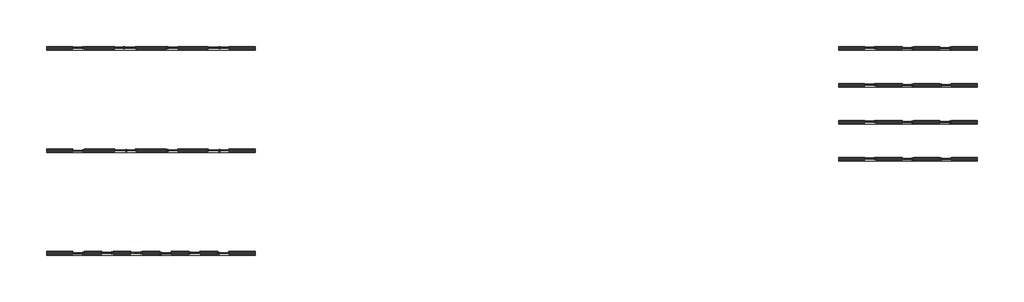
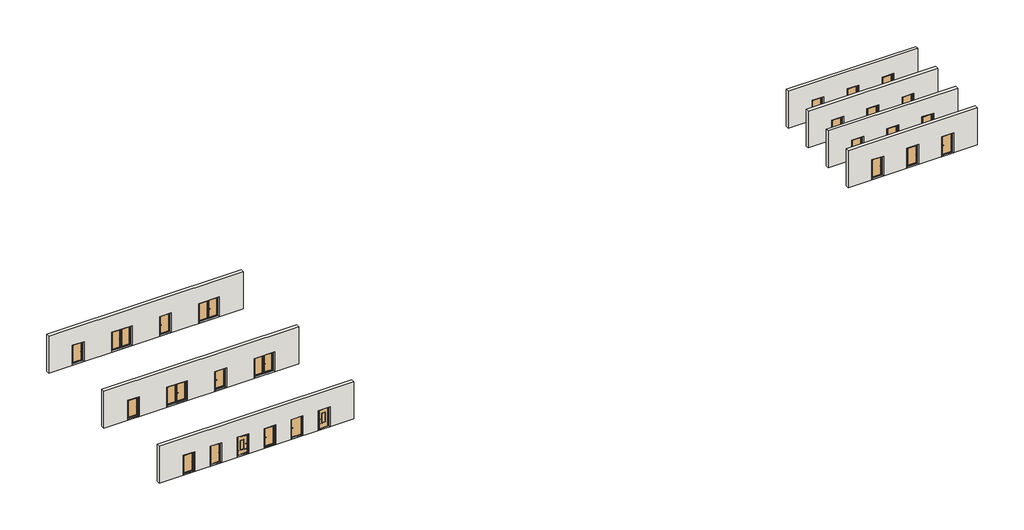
# One storey: 26 doors, 7 walls.
"""IFC4 building model written with IfcOpenShell, lengths in millimetres."""

from ifc_helpers import new_model, si_unit, origin, place, context, project, spatial, faceted_brep, transform, mapped, element, save
from components import door_6b16127b, door_e52979b4, door_422cb465, door_0d24d2ff, door_79985621, door_7bfdfdec, door_d3311b6a, door_79777f99, door_e801cc89, door_6b7e9e11, door_0151d565, door_f76902fe, door_2ac161dd, door_eae7a023, door_b9a668b0, door_777bb172, door_1f8e81a8, door_75182414, door_b5e8bffb, door_9ae7bd01, door_9cbeffaa, door_b2cb6bb5, door_4000bd27

model = new_model("IFC4")

# Units and contexts
model_context = context("Model", 3, world=origin())
ifc_project = project(units=[si_unit("LENGTHUNIT", "METRE", prefix="MILLI")], contexts=[model_context])

# Site, building, storey
site = spatial("IfcSite", under=ifc_project)
building = spatial("IfcBuilding", under=site)
storey = spatial("IfcBuildingStorey", under=building, Name="REY 01 - Overview Doors", Elevation=0.0)

# Doors
placement = place(None, origin())
door_shape = door_6b16127b(model_context)
element("IfcDoor", 1, ObjectType="Reynaers_CS 77_Door_Miter_Inward Opening_Double Vent : Reynaers_CS 77_Door_Inward Opening_Double Vent", at=placement, inside=storey, context=model_context, shape_type="MappedRepresentation", body=[
    mapped(door_shape, transform((-495.1752344, 9435.7590232, 0.0), x_axis=(-1.0, 0.0, 0.0), y_axis=(0.0, -1.0, 0.0), z_axis=(0.0, 0.0, 1.0))),
])
door_2_shape = door_e52979b4(model_context)
element("IfcDoor", 2, ObjectType="Reynaers_CS 77_Door_Miter_Inward Opening_Single Vent : Reynaers_CS 77_Door_Miter_Inward Opening_Single Vent", at=placement, inside=storey, context=model_context, shape_type="MappedRepresentation", body=[
    mapped(door_2_shape, transform((-4978.1752344, 9435.7590232, 0.0), x_axis=(-1.0, 0.0, 0.0), y_axis=(0.0, -1.0, 0.0), z_axis=(0.0, 0.0, 1.0))),
])
element("IfcDoor", 3, ObjectType="Reynaers_CS 77_Door_Miter_Inward Opening_Single Vent : Reynaers_CS 77_Door_Miter_Inward Opening_Single Vent", at=placement, inside=storey, context=model_context, shape_type="MappedRepresentation", body=[
    mapped(door_2_shape, transform((71021.8247656, 9435.7590232, 0.0), x_axis=(-1.0, 0.0, 0.0), y_axis=(0.0, -1.0, 0.0), z_axis=(0.0, 0.0, 1.0))),
])
door_3_shape = door_422cb465(model_context)
element("IfcDoor", 4, ObjectType="Reynaers_CS 77_Door_Miter_Inward Opening_Single Vent : Reynaers_CS 77_Door_Miter_Inward Opening_Single Vent", at=placement, inside=storey, context=model_context, shape_type="MappedRepresentation", body=[
    mapped(door_3_shape, transform((71021.8247656, 5887.8975638, 0.0), x_axis=(-1.0, 0.0, 0.0), y_axis=(0.0, -1.0, 0.0), z_axis=(0.0, 0.0, 1.0))),
])
door_4_shape = door_0d24d2ff(model_context)
element("IfcDoor", 5, ObjectType="Reynaers_CS 77_Door_Miter_Outward Opening_Double Vent : Reynaers_CS 77_Door_Inward Opening_Double Vent", at=placement, inside=storey, context=model_context, shape_type="MappedRepresentation", body=[
    mapped(door_4_shape, transform((8471.8247656, 9435.7590232, 0.0), x_axis=(1.0, 0.0, 0.0), y_axis=(0.0, 1.0, 0.0), z_axis=(0.0, 0.0, 1.0))),
])
door_5_shape = door_79985621(model_context)
element("IfcDoor", 6, ObjectType="Reynaers_CS 77_Door_Miter_Outward Opening_Single Vent : Reynaers_CS 77_Door_Miter_Outward Opening_Single Vent", at=placement, inside=storey, context=model_context, shape_type="MappedRepresentation", body=[
    mapped(door_5_shape, transform((3988.8247656, 9435.7590232, 0.0), x_axis=(1.0, 0.0, 0.0), y_axis=(0.0, 1.0, 0.0), z_axis=(0.0, 0.0, 1.0))),
])
door_6_shape = door_7bfdfdec(model_context)
element("IfcDoor", 7, ObjectType="Reynaers_CS 77_Door_Miter_Outward Opening_Single Vent : Reynaers_CS 77_Door_Miter_Outward Opening_Single Vent", at=placement, inside=storey, context=model_context, shape_type="MappedRepresentation", body=[
    mapped(door_6_shape, transform((71021.8247656, -1212.1024362, 0.0), x_axis=(-1.0, 0.0, 0.0), y_axis=(0.0, -1.0, 0.0), z_axis=(0.0, 0.0, 1.0))),
])
door_7_shape = door_d3311b6a(model_context)
element("IfcDoor", 8, ObjectType="Reynaers_CS 77_Door_Miter_Outward Opening_Single Vent : Reynaers_CS 77_Door_Miter_Outward Opening_Single Vent", at=placement, inside=storey, context=model_context, shape_type="MappedRepresentation", body=[
    mapped(door_7_shape, transform((71021.8247656, 2335.7590232, 0.0), x_axis=(-1.0, 0.0, 0.0), y_axis=(0.0, -1.0, 0.0), z_axis=(0.0, 0.0, 1.0))),
])
door_8_shape = door_79777f99(model_context)
element("IfcDoor", 9, ObjectType="Reynaers_CS 77_Door_Panel_Inward Opening_Single Vent_Double Sided : Reynaers_CS 77_Door_Panel_Inward Opening_Single Vent_Double Sided", at=placement, inside=storey, context=model_context, shape_type="MappedRepresentation", body=[
    mapped(door_8_shape, transform((-2198.1752344, -10264.2409768, 0.0), x_axis=(1.0, 0.0, 0.0), y_axis=(0.0, 1.0, 0.0), z_axis=(0.0, 0.0, 1.0))),
])
door_9_shape = door_e801cc89(model_context)
element("IfcDoor", 10, ObjectType="Reynaers_CS 77_Door_Panel_Inward Opening_Single Vent_Double Sided : Reynaers_CS 77_Door_Panel_Inward Opening_Single Vent_Double Sided", at=placement, inside=storey, context=model_context, shape_type="MappedRepresentation", body=[
    mapped(door_9_shape, transform((78221.8247656, 5887.8975638, 0.0), x_axis=(-1.0, 0.0, 0.0), y_axis=(0.0, -1.0, 0.0), z_axis=(0.0, 0.0, 1.0))),
])
door_10_shape = door_6b7e9e11(model_context)
element("IfcDoor", 11, ObjectType="Reynaers_CS 77_Door_Panel_Inward Opening_Single Vent_One Sided : Reynaers_CS 77_Door_Panel_Inward Opening_Single Vent_One Sided", at=placement, inside=storey, context=model_context, shape_type="MappedRepresentation", body=[
    mapped(door_10_shape, transform((-4978.1752344, -10264.2409768, 0.0), x_axis=(1.0, 0.0, 0.0), y_axis=(0.0, 1.0, 0.0), z_axis=(0.0, 0.0, 1.0))),
])
element("IfcDoor", 12, ObjectType="Reynaers_CS 77_Door_Panel_Inward Opening_Single Vent_One Sided : Reynaers_CS 77_Door_Panel_Inward Opening_Single Vent_One Sided", at=placement, inside=storey, context=model_context, shape_type="MappedRepresentation", body=[
    mapped(door_10_shape, transform((78221.8247656, 9435.7590232, 0.0), x_axis=(1.0, 0.0, 0.0), y_axis=(0.0, 1.0, 0.0), z_axis=(0.0, 0.0, 1.0))),
])
door_11_shape = door_0151d565(model_context)
element("IfcDoor", 13, ObjectType="Reynaers_CS 77_Door_Panel_Inward Opening_Single Vent_Spy Window : Reynaers_CS 77_Door_Panel_Inward Opening_Single Vent_Spy Window", at=placement, inside=storey, context=model_context, shape_type="MappedRepresentation", body=[
    mapped(door_11_shape, transform((581.8247656, -10264.2409768, 0.0), x_axis=(1.0, 0.0, 0.0), y_axis=(0.0, 1.0, 0.0), z_axis=(0.0, 0.0, 1.0))),
])
door_12_shape = door_f76902fe(model_context)
element("IfcDoor", 14, ObjectType="Reynaers_CS 77_Door_Panel_Outward Opening_Single Vent_Double Sided : Reynaers_CS 77_Door_Panel_Outward Opening_Single Vent_Double Sided", at=placement, inside=storey, context=model_context, shape_type="MappedRepresentation", body=[
    mapped(door_12_shape, transform((6141.8247656, -10264.2409768, 0.0), x_axis=(1.0, 0.0, 0.0), y_axis=(0.0, 1.0, 0.0), z_axis=(0.0, 0.0, 1.0))),
])
door_13_shape = door_2ac161dd(model_context)
element("IfcDoor", 15, ObjectType="Reynaers_CS 77_Door_Panel_Outward Opening_Single Vent_Double Sided : Reynaers_CS 77_Door_Panel_Outward Opening_Single Vent_Double Sided", at=placement, inside=storey, context=model_context, shape_type="MappedRepresentation", body=[
    mapped(door_13_shape, transform((78221.8247656, -1212.1024362, 0.0), x_axis=(-1.0, 0.0, 0.0), y_axis=(0.0, -1.0, 0.0), z_axis=(0.0, 0.0, 1.0))),
])
door_14_shape = door_eae7a023(model_context)
element("IfcDoor", 16, ObjectType="Reynaers_CS 77_Door_Panel_Outward Opening_Single Vent_One Sided : Reynaers_CS 77_Door_Panel_Outward Opening_Single Vent_One Sided", at=placement, inside=storey, context=model_context, shape_type="MappedRepresentation", body=[
    mapped(door_14_shape, transform((3361.8247656, -10264.2409768, 0.0), x_axis=(1.0, 0.0, 0.0), y_axis=(0.0, 1.0, 0.0), z_axis=(0.0, 0.0, 1.0))),
])
door_15_shape = door_b9a668b0(model_context)
element("IfcDoor", 17, ObjectType="Reynaers_CS 77_Door_Panel_Outward Opening_Single Vent_One Sided : Reynaers_CS 77_Door_Panel_Outward Opening_Single Vent_One Sided", at=placement, inside=storey, context=model_context, shape_type="MappedRepresentation", body=[
    mapped(door_15_shape, transform((78221.8247656, 2335.7590232, 0.0), x_axis=(1.0, 0.0, 0.0), y_axis=(0.0, 1.0, 0.0), z_axis=(0.0, 0.0, 1.0))),
])
door_16_shape = door_777bb172(model_context)
element("IfcDoor", 18, ObjectType="Reynaers_CS 77_Door_Panel_Outward Opening_Single Vent_Spy Window : Reynaers_CS 77_Door_Panel_Outward Opening_Single Vent_Spy Window", at=placement, inside=storey, context=model_context, shape_type="MappedRepresentation", body=[
    mapped(door_16_shape, transform((8921.8247656, -10264.2409768, 0.0), x_axis=(1.0, 0.0, 0.0), y_axis=(0.0, 1.0, 0.0), z_axis=(0.0, 0.0, 1.0))),
])
door_17_shape = door_1f8e81a8(model_context)
element("IfcDoor", 19, ObjectType="Reynaers_CS 77_Door_Plinth_Inward Opening_Double Vent : Reynaers_CS 77_Door_Inward Opening_Double Vent", at=placement, inside=storey, context=model_context, shape_type="MappedRepresentation", body=[
    mapped(door_17_shape, transform((-495.1752344, -414.2409768, 0.0), x_axis=(1.0, 0.0, 0.0), y_axis=(0.0, 1.0, 0.0), z_axis=(0.0, 0.0, 1.0))),
])
door_18_shape = door_75182414(model_context)
element("IfcDoor", 20, ObjectType="Reynaers_CS 77_Door_Plinth_Inward Opening_Single Vent : Reynaers_CS 77_Door_Plinth_Inward Opening_Single Vent", at=placement, inside=storey, context=model_context, shape_type="MappedRepresentation", body=[
    mapped(door_18_shape, transform((-4978.1752344, -414.2409768, 0.0), x_axis=(1.0, 0.0, 0.0), y_axis=(0.0, 1.0, 0.0), z_axis=(0.0, 0.0, 1.0))),
])
element("IfcDoor", 21, ObjectType="Reynaers_CS 77_Door_Plinth_Inward Opening_Single Vent : Reynaers_CS 77_Door_Plinth_Inward Opening_Single Vent", at=placement, inside=storey, context=model_context, shape_type="MappedRepresentation", body=[
    mapped(door_18_shape, transform((74621.8247656, 9435.7590232, 0.0), x_axis=(1.0, 0.0, 0.0), y_axis=(0.0, 1.0, 0.0), z_axis=(0.0, 0.0, 1.0))),
])
door_19_shape = door_b5e8bffb(model_context)
element("IfcDoor", 22, ObjectType="Reynaers_CS 77_Door_Plinth_Inward Opening_Single Vent : Reynaers_CS 77_Door_Plinth_Inward Opening_Single Vent", at=placement, inside=storey, context=model_context, shape_type="MappedRepresentation", body=[
    mapped(door_19_shape, transform((74621.8247656, 5887.8975638, 0.0), x_axis=(1.0, 0.0, 0.0), y_axis=(0.0, 1.0, 0.0), z_axis=(0.0, 0.0, 1.0))),
])
door_20_shape = door_9ae7bd01(model_context)
element("IfcDoor", 23, ObjectType="Reynaers_CS 77_Door_Plinth_Outward Opening_Double Vent : Reynaers_CS 77_Door_Outward_ Opening_Double Vent", at=placement, inside=storey, context=model_context, shape_type="MappedRepresentation", body=[
    mapped(door_20_shape, transform((8471.8247656, -414.2409768, 0.0), x_axis=(1.0, 0.0, 0.0), y_axis=(0.0, 1.0, 0.0), z_axis=(0.0, 0.0, 1.0))),
])
door_21_shape = door_9cbeffaa(model_context)
element("IfcDoor", 24, ObjectType="Reynaers_CS 77_Door_Plinth_Outward Opening_Single Vent : Reynaers_CS 77_Door_Plinth_Outward Opening_Single Vent", at=placement, inside=storey, context=model_context, shape_type="MappedRepresentation", body=[
    mapped(door_21_shape, transform((3988.8247656, -414.2409768, 0.0), x_axis=(1.0, 0.0, 0.0), y_axis=(0.0, 1.0, 0.0), z_axis=(0.0, 0.0, 1.0))),
])
door_22_shape = door_b2cb6bb5(model_context)
element("IfcDoor", 25, ObjectType="Reynaers_CS 77_Door_Plinth_Outward Opening_Single Vent : Reynaers_CS 77_Door_Plinth_Outward Opening_Single Vent", at=placement, inside=storey, context=model_context, shape_type="MappedRepresentation", body=[
    mapped(door_22_shape, transform((74621.8247656, -1212.1024362, 0.0), x_axis=(1.0, 0.0, 0.0), y_axis=(0.0, 1.0, 0.0), z_axis=(0.0, 0.0, 1.0))),
])
door_23_shape = door_4000bd27(model_context)
element("IfcDoor", 26, ObjectType="Reynaers_CS 77_Door_Plinth_Outward Opening_Single Vent : Reynaers_CS 77_Door_Plinth_Outward Opening_Single Vent", at=placement, inside=storey, context=model_context, shape_type="MappedRepresentation", body=[
    mapped(door_23_shape, transform((74621.8247656, 2335.7590232, 0.0), x_axis=(1.0, 0.0, 0.0), y_axis=(0.0, 1.0, 0.0), z_axis=(0.0, 0.0, 1.0))),
])

# Walls
element("IfcWall", 27, ObjectType="21_SPM_90-30-80-140-10", at=placement, inside=storey, context=model_context, shape_type="Brep", body=[
    faceted_brep([(-8028.1752344, -10439.2409768, 0.0), (11971.8247656, -10439.2409768, 0.0), (11971.8247656, -10439.2409768, 4000.0), (-8028.1752344, -10439.2409768, 4000.0), (-5578.1752344, -10439.2409768, 2150.0), (-4378.1752344, -10439.2409768, 2150.0), (-4378.1752344, -10439.2409768, 1.0), (-5578.1752344, -10439.2409768, 1.0), (-2798.1752344, -10439.2409768, 2150.0), (-1598.1752344, -10439.2409768, 2150.0), (-1598.1752344, -10439.2409768, 1.0), (-2798.1752344, -10439.2409768, 1.0), (-18.1752344, -10439.2409768, 2150.0), (1181.8247656, -10439.2409768, 2150.0), (1181.8247656, -10439.2409768, 1.0), (-18.1752344, -10439.2409768, 1.0), (2761.8247656, -10439.2409768, 2150.0), (3961.8247656, -10439.2409768, 2150.0), (3961.8247656, -10439.2409768, 1.0), (2761.8247656, -10439.2409768, 1.0), (5541.8247656, -10439.2409768, 2150.0), (6741.8247656, -10439.2409768, 2150.0), (6741.8247656, -10439.2409768, 1.0), (5541.8247656, -10439.2409768, 1.0), (8321.8247656, -10439.2409768, 2150.0), (9521.8247656, -10439.2409768, 2150.0), (9521.8247656, -10439.2409768, 1.0), (8321.8247656, -10439.2409768, 1.0), (11971.8247656, -10089.2409768, 4000.0), (11971.8247656, -10089.2409768, 0.0), (9471.8247656, -10089.2409768, 0.0), (9471.8247656, -10089.2409768, 2100.0), (8371.8247656, -10089.2409768, 2100.0), (8371.8247656, -10089.2409768, 0.0), (6691.8247656, -10089.2409768, 0.0), (6691.8247656, -10089.2409768, 2100.0), (5591.8247656, -10089.2409768, 2100.0), (5591.8247656, -10089.2409768, 0.0), (3911.8247656, -10089.2409768, 0.0), (3911.8247656, -10089.2409768, 2100.0), (2811.8247656, -10089.2409768, 2100.0), (2811.8247656, -10089.2409768, 0.0), (1131.8247656, -10089.2409768, 0.0), (1131.8247656, -10089.2409768, 2100.0), (31.8247656, -10089.2409768, 2100.0), (31.8247656, -10089.2409768, 0.0), (-1648.1752344, -10089.2409768, 0.0), (-1648.1752344, -10089.2409768, 2100.0), (-2748.1752344, -10089.2409768, 2100.0), (-2748.1752344, -10089.2409768, 0.0), (-4428.1752344, -10089.2409768, 0.0), (-4428.1752344, -10089.2409768, 2100.0), (-5528.1752344, -10089.2409768, 2100.0), (-5528.1752344, -10089.2409768, 0.0), (-8028.1752344, -10089.2409768, 0.0), (-8028.1752344, -10089.2409768, 4000.0), (-5528.1752344, -10216.7409768, 0.0), (-4428.1752344, -10216.7409768, 0.0), (-2748.1752344, -10179.2409768, 0.0), (-1648.1752344, -10179.2409768, 0.0), (31.8247656, -10179.2409768, 0.0), (1131.8247656, -10179.2409768, 0.0), (2811.8247656, -10216.7409768, 0.0), (3911.8247656, -10216.7409768, 0.0), (5591.8247656, -10179.2409768, 0.0), (6691.8247656, -10179.2409768, 0.0), (8371.8247656, -10216.7409768, 0.0), (9471.8247656, -10216.7409768, 0.0), (-4428.1752344, -10216.7409768, 2100.0), (-5528.1752344, -10216.7409768, 2100.0), (-5528.1752344, -10216.7409768, 1.0), (-4428.1752344, -10216.7409768, 1.0), (-4378.1752344, -10216.7409768, 2150.0), (-5578.1752344, -10216.7409768, 2150.0), (-5578.1752344, -10216.7409768, 1.0), (-4378.1752344, -10216.7409768, 1.0), (-1648.1752344, -10179.2409768, 2100.0), (-2748.1752344, -10179.2409768, 2100.0), (-2748.1752344, -10179.2409768, 1.0), (-1648.1752344, -10179.2409768, 1.0), (-1598.1752344, -10179.2409768, 2150.0), (-2798.1752344, -10179.2409768, 2150.0), (-2798.1752344, -10179.2409768, 1.0), (-1598.1752344, -10179.2409768, 1.0), (1131.8247656, -10179.2409768, 2100.0), (31.8247656, -10179.2409768, 2100.0), (31.8247656, -10179.2409768, 1.0), (1131.8247656, -10179.2409768, 1.0), (1181.8247656, -10179.2409768, 2150.0), (-18.1752344, -10179.2409768, 2150.0), (-18.1752344, -10179.2409768, 1.0), (1181.8247656, -10179.2409768, 1.0), (3911.8247656, -10216.7409768, 2100.0), (2811.8247656, -10216.7409768, 2100.0), (2811.8247656, -10216.7409768, 1.0), (3911.8247656, -10216.7409768, 1.0), (3961.8247656, -10216.7409768, 2150.0), (2761.8247656, -10216.7409768, 2150.0), (2761.8247656, -10216.7409768, 1.0), (3961.8247656, -10216.7409768, 1.0), (6691.8247656, -10179.2409768, 2100.0), (5591.8247656, -10179.2409768, 2100.0), (5591.8247656, -10179.2409768, 1.0), (6691.8247656, -10179.2409768, 1.0), (6741.8247656, -10179.2409768, 2150.0), (5541.8247656, -10179.2409768, 2150.0), (5541.8247656, -10179.2409768, 1.0), (6741.8247656, -10179.2409768, 1.0), (9471.8247656, -10216.7409768, 2100.0), (8371.8247656, -10216.7409768, 2100.0), (8371.8247656, -10216.7409768, 1.0), (9471.8247656, -10216.7409768, 1.0), (9521.8247656, -10216.7409768, 2150.0), (8321.8247656, -10216.7409768, 2150.0), (8321.8247656, -10216.7409768, 1.0), (9521.8247656, -10216.7409768, 1.0)], [[[0, 1, 2, 3], [4, 5, 6, 7], [8, 9, 10, 11], [12, 13, 14, 15], [16, 17, 18, 19], [20, 21, 22, 23], [24, 25, 26, 27]], [[28, 29, 30, 31, 32, 33, 34, 35, 36, 37, 38, 39, 40, 41, 42, 43, 44, 45, 46, 47, 48, 49, 50, 51, 52, 53, 54, 55]], [[1, 0, 54, 53, 56, 57, 50, 49, 58, 59, 46, 45, 60, 61, 42, 41, 62, 63, 38, 37, 64, 65, 34, 33, 66, 67, 30, 29]], [[2, 1, 29, 28]], [[3, 2, 28, 55]], [[0, 3, 55, 54]], [[51, 68, 69, 52]], [[52, 69, 70, 56, 53]], [[56, 70, 71, 57]], [[68, 51, 50, 57, 71]], [[72, 5, 4, 73]], [[71, 70, 74, 7, 6, 75]], [[69, 68, 71, 75, 72, 73, 74, 70]], [[73, 4, 7, 74]], [[5, 72, 75, 6]], [[47, 76, 77, 48]], [[48, 77, 78, 58, 49]], [[58, 78, 79, 59]], [[76, 47, 46, 59, 79]], [[80, 9, 8, 81]], [[79, 78, 82, 11, 10, 83]], [[77, 76, 79, 83, 80, 81, 82, 78]], [[81, 8, 11, 82]], [[9, 80, 83, 10]], [[43, 84, 85, 44]], [[44, 85, 86, 60, 45]], [[60, 86, 87, 61]], [[84, 43, 42, 61, 87]], [[88, 13, 12, 89]], [[87, 86, 90, 15, 14, 91]], [[85, 84, 87, 91, 88, 89, 90, 86]], [[89, 12, 15, 90]], [[13, 88, 91, 14]], [[39, 92, 93, 40]], [[40, 93, 94, 62, 41]], [[62, 94, 95, 63]], [[92, 39, 38, 63, 95]], [[96, 17, 16, 97]], [[95, 94, 98, 19, 18, 99]], [[93, 92, 95, 99, 96, 97, 98, 94]], [[97, 16, 19, 98]], [[17, 96, 99, 18]], [[35, 100, 101, 36]], [[36, 101, 102, 64, 37]], [[64, 102, 103, 65]], [[100, 35, 34, 65, 103]], [[104, 21, 20, 105]], [[103, 102, 106, 23, 22, 107]], [[101, 100, 103, 107, 104, 105, 106, 102]], [[105, 20, 23, 106]], [[21, 104, 107, 22]], [[31, 108, 109, 32]], [[32, 109, 110, 66, 33]], [[66, 110, 111, 67]], [[108, 31, 30, 67, 111]], [[112, 25, 24, 113]], [[111, 110, 114, 27, 26, 115]], [[109, 108, 111, 115, 112, 113, 114, 110]], [[113, 24, 27, 114]], [[25, 112, 115, 26]]]),
])
element("IfcWall", 28, ObjectType="21_SPM_90-30-80-140-10", at=placement, inside=storey, context=model_context, shape_type="Brep", body=[
    faceted_brep([(-8028.1752344, -589.2409768, 0.0), (11971.8247656, -589.2409768, 0.0), (11971.8247656, -589.2409768, 4000.0), (-8028.1752344, -589.2409768, 4000.0), (-5578.1752344, -589.2409768, 2150.0), (-4378.1752344, -589.2409768, 2150.0), (-4378.1752344, -589.2409768, 1.0), (-5578.1752344, -589.2409768, 1.0), (-1545.1752344, -589.2409768, 2150.0), (554.8247656, -589.2409768, 2150.0), (554.8247656, -589.2409768, 1.0), (-1545.1752344, -589.2409768, 1.0), (3388.8247656, -589.2409768, 2150.0), (4588.8247656, -589.2409768, 2150.0), (4588.8247656, -589.2409768, 1.0), (3388.8247656, -589.2409768, 1.0), (7421.8247656, -589.2409768, 2150.0), (9521.8247656, -589.2409768, 2150.0), (9521.8247656, -589.2409768, 1.0), (7421.8247656, -589.2409768, 1.0), (11971.8247656, -239.2409768, 4000.0), (11971.8247656, -239.2409768, 0.0), (9471.8247656, -239.2409768, 0.0), (9471.8247656, -239.2409768, 2100.0), (7471.8247656, -239.2409768, 2100.0), (7471.8247656, -239.2409768, 0.0), (4538.8247656, -239.2409768, 0.0), (4538.8247656, -239.2409768, 2100.0), (3438.8247656, -239.2409768, 2100.0), (3438.8247656, -239.2409768, 0.0), (504.8247656, -239.2409768, 0.0), (504.8247656, -239.2409768, 2100.0), (-1495.1752344, -239.2409768, 2100.0), (-1495.1752344, -239.2409768, 0.0), (-4428.1752344, -239.2409768, 0.0), (-4428.1752344, -239.2409768, 2100.0), (-5528.1752344, -239.2409768, 2100.0), (-5528.1752344, -239.2409768, 0.0), (-8028.1752344, -239.2409768, 0.0), (-8028.1752344, -239.2409768, 4000.0), (-5528.1752344, -366.7409768, 0.0), (-4428.1752344, -366.7409768, 0.0), (-1495.1752344, -329.2409768, 0.0), (504.8247656, -329.2409768, 0.0), (3438.8247656, -329.2409768, 0.0), (4538.8247656, -329.2409768, 0.0), (7471.8247656, -329.2409768, 0.0), (9471.8247656, -329.2409768, 0.0), (-4428.1752344, -366.7409768, 2100.0), (-5528.1752344, -366.7409768, 2100.0), (-5528.1752344, -366.7409768, 1.0), (-4428.1752344, -366.7409768, 1.0), (-4378.1752344, -366.7409768, 2150.0), (-5578.1752344, -366.7409768, 2150.0), (-5578.1752344, -366.7409768, 1.0), (-4378.1752344, -366.7409768, 1.0), (504.8247656, -329.2409768, 2100.0), (-1495.1752344, -329.2409768, 2100.0), (-1495.1752344, -329.2409768, 1.0), (504.8247656, -329.2409768, 1.0), (554.8247656, -329.2409768, 2150.0), (-1545.1752344, -329.2409768, 2150.0), (-1545.1752344, -329.2409768, 1.0), (554.8247656, -329.2409768, 1.0), (4538.8247656, -329.2409768, 2100.0), (3438.8247656, -329.2409768, 2100.0), (3438.8247656, -329.2409768, 1.0), (4538.8247656, -329.2409768, 1.0), (4588.8247656, -329.2409768, 2150.0), (3388.8247656, -329.2409768, 2150.0), (3388.8247656, -329.2409768, 1.0), (4588.8247656, -329.2409768, 1.0), (9471.8247656, -329.2409768, 2100.0), (7471.8247656, -329.2409768, 2100.0), (7471.8247656, -329.2409768, 1.0), (9471.8247656, -329.2409768, 1.0), (9521.8247656, -329.2409768, 2150.0), (7421.8247656, -329.2409768, 2150.0), (7421.8247656, -329.2409768, 1.0), (9521.8247656, -329.2409768, 1.0)], [[[0, 1, 2, 3], [4, 5, 6, 7], [8, 9, 10, 11], [12, 13, 14, 15], [16, 17, 18, 19]], [[20, 21, 22, 23, 24, 25, 26, 27, 28, 29, 30, 31, 32, 33, 34, 35, 36, 37, 38, 39]], [[1, 0, 38, 37, 40, 41, 34, 33, 42, 43, 30, 29, 44, 45, 26, 25, 46, 47, 22, 21]], [[2, 1, 21, 20]], [[3, 2, 20, 39]], [[0, 3, 39, 38]], [[35, 48, 49, 36]], [[36, 49, 50, 40, 37]], [[40, 50, 51, 41]], [[48, 35, 34, 41, 51]], [[52, 5, 4, 53]], [[51, 50, 54, 7, 6, 55]], [[49, 48, 51, 55, 52, 53, 54, 50]], [[53, 4, 7, 54]], [[5, 52, 55, 6]], [[31, 56, 57, 32]], [[32, 57, 58, 42, 33]], [[42, 58, 59, 43]], [[56, 31, 30, 43, 59]], [[60, 9, 8, 61]], [[59, 58, 62, 11, 10, 63]], [[57, 56, 59, 63, 60, 61, 62, 58]], [[61, 8, 11, 62]], [[9, 60, 63, 10]], [[27, 64, 65, 28]], [[28, 65, 66, 44, 29]], [[44, 66, 67, 45]], [[64, 27, 26, 45, 67]], [[68, 13, 12, 69]], [[67, 66, 70, 15, 14, 71]], [[65, 64, 67, 71, 68, 69, 70, 66]], [[69, 12, 15, 70]], [[13, 68, 71, 14]], [[23, 72, 73, 24]], [[24, 73, 74, 46, 25]], [[46, 74, 75, 47]], [[72, 23, 22, 47, 75]], [[76, 17, 16, 77]], [[75, 74, 78, 19, 18, 79]], [[73, 72, 75, 79, 76, 77, 78, 74]], [[77, 16, 19, 78]], [[17, 76, 79, 18]]]),
])
element("IfcWall", 29, ObjectType="21_SPM_90-30-80-140-10", at=placement, inside=storey, context=model_context, shape_type="Brep", body=[
    faceted_brep([(-8028.1752344, 9260.7590232, 0.0), (11971.8247656, 9260.7590232, 0.0), (11971.8247656, 9260.7590232, 4000.0), (-8028.1752344, 9260.7590232, 4000.0), (7421.8247656, 9260.7590232, 2150.0), (9521.8247656, 9260.7590232, 2150.0), (9521.8247656, 9260.7590232, 1.0), (7421.8247656, 9260.7590232, 1.0), (3388.8247656, 9260.7590232, 2150.0), (4588.8247656, 9260.7590232, 2150.0), (4588.8247656, 9260.7590232, 1.0), (3388.8247656, 9260.7590232, 1.0), (-5578.1752344, 9260.7590232, 2150.0), (-4378.1752344, 9260.7590232, 2150.0), (-4378.1752344, 9260.7590232, 1.0), (-5578.1752344, 9260.7590232, 1.0), (-1545.1752344, 9260.7590232, 2150.0), (554.8247656, 9260.7590232, 2150.0), (554.8247656, 9260.7590232, 1.0), (-1545.1752344, 9260.7590232, 1.0), (11971.8247656, 9610.7590232, 4000.0), (11971.8247656, 9610.7590232, 0.0), (9471.8247656, 9610.7590232, 0.0), (9471.8247656, 9610.7590232, 2100.0), (7471.8247656, 9610.7590232, 2100.0), (7471.8247656, 9610.7590232, 0.0), (4538.8247656, 9610.7590232, 0.0), (4538.8247656, 9610.7590232, 2100.0), (3438.8247656, 9610.7590232, 2100.0), (3438.8247656, 9610.7590232, 0.0), (504.8247656, 9610.7590232, 0.0), (504.8247656, 9610.7590232, 2100.0), (-1495.1752344, 9610.7590232, 2100.0), (-1495.1752344, 9610.7590232, 0.0), (-4428.1752344, 9610.7590232, 0.0), (-4428.1752344, 9610.7590232, 2100.0), (-5528.1752344, 9610.7590232, 2100.0), (-5528.1752344, 9610.7590232, 0.0), (-8028.1752344, 9610.7590232, 0.0), (-8028.1752344, 9610.7590232, 4000.0), (-5528.1752344, 9520.7590232, 0.0), (-4428.1752344, 9520.7590232, 0.0), (-1495.1752344, 9520.7590232, 0.0), (504.8247656, 9520.7590232, 0.0), (3438.8247656, 9520.7590232, 0.0), (4538.8247656, 9520.7590232, 0.0), (7471.8247656, 9520.7590232, 0.0), (9471.8247656, 9520.7590232, 0.0), (9471.8247656, 9520.7590232, 2100.0), (7471.8247656, 9520.7590232, 2100.0), (7471.8247656, 9520.7590232, 1.0), (9471.8247656, 9520.7590232, 1.0), (9521.8247656, 9520.7590232, 2150.0), (7421.8247656, 9520.7590232, 2150.0), (7421.8247656, 9520.7590232, 1.0), (9521.8247656, 9520.7590232, 1.0), (4538.8247656, 9520.7590232, 2100.0), (3438.8247656, 9520.7590232, 2100.0), (3438.8247656, 9520.7590232, 1.0), (4538.8247656, 9520.7590232, 1.0), (4588.8247656, 9520.7590232, 2150.0), (3388.8247656, 9520.7590232, 2150.0), (3388.8247656, 9520.7590232, 1.0), (4588.8247656, 9520.7590232, 1.0), (-1495.1752344, 9520.7590232, 2100.0), (504.8247656, 9520.7590232, 2100.0), (504.8247656, 9520.7590232, 1.0), (-1495.1752344, 9520.7590232, 1.0), (-1545.1752344, 9520.7590232, 2150.0), (554.8247656, 9520.7590232, 2150.0), (-1545.1752344, 9520.7590232, 1.0), (554.8247656, 9520.7590232, 1.0), (-4428.1752344, 9520.7590232, 2100.0), (-5528.1752344, 9520.7590232, 2100.0), (-4428.1752344, 9520.7590232, 1.0), (-5528.1752344, 9520.7590232, 1.0), (-5578.1752344, 9520.7590232, 2150.0), (-4378.1752344, 9520.7590232, 2150.0), (-5578.1752344, 9520.7590232, 1.0), (-4378.1752344, 9520.7590232, 1.0)], [[[0, 1, 2, 3], [4, 5, 6, 7], [8, 9, 10, 11], [12, 13, 14, 15], [16, 17, 18, 19]], [[20, 21, 22, 23, 24, 25, 26, 27, 28, 29, 30, 31, 32, 33, 34, 35, 36, 37, 38, 39]], [[1, 0, 38, 37, 40, 41, 34, 33, 42, 43, 30, 29, 44, 45, 26, 25, 46, 47, 22, 21]], [[2, 1, 21, 20]], [[3, 2, 20, 39]], [[0, 3, 39, 38]], [[23, 48, 49, 24]], [[24, 49, 50, 46, 25]], [[46, 50, 51, 47]], [[48, 23, 22, 47, 51]], [[52, 5, 4, 53]], [[51, 50, 54, 7, 6, 55]], [[49, 48, 51, 55, 52, 53, 54, 50]], [[53, 4, 7, 54]], [[5, 52, 55, 6]], [[27, 56, 57, 28]], [[28, 57, 58, 44, 29]], [[44, 58, 59, 45]], [[56, 27, 26, 45, 59]], [[60, 9, 8, 61]], [[59, 58, 62, 11, 10, 63]], [[57, 56, 59, 63, 60, 61, 62, 58]], [[61, 8, 11, 62]], [[9, 60, 63, 10]], [[64, 32, 31, 65]], [[65, 31, 30, 43, 66]], [[66, 43, 42, 67]], [[32, 64, 67, 42, 33]], [[16, 68, 69, 17]], [[66, 67, 70, 19, 18, 71]], [[64, 65, 66, 71, 69, 68, 70, 67]], [[17, 69, 71, 18]], [[68, 16, 19, 70]], [[35, 72, 73, 36]], [[72, 35, 34, 41, 74]], [[74, 41, 40, 75]], [[36, 73, 75, 40, 37]], [[76, 77, 13, 12]], [[74, 75, 78, 15, 14, 79]], [[73, 72, 74, 79, 77, 76, 78, 75]], [[13, 77, 79, 14]], [[76, 12, 15, 78]]]),
])
element("IfcWall", 30, ObjectType="21_SPM_90-30-80-140-10", at=placement, inside=storey, context=model_context, shape_type="Brep", body=[
    faceted_brep([(67971.8247656, 5712.8975638, 0.0), (81271.8247656, 5712.8975638, 0.0), (81271.8247656, 5712.8975638, 4000.0), (67971.8247656, 5712.8975638, 4000.0), (74021.8247656, 5712.8975638, 2150.0), (75221.8247656, 5712.8975638, 2150.0), (75221.8247656, 5712.8975638, 1.0), (74021.8247656, 5712.8975638, 1.0), (70421.8247656, 5712.8975638, 2150.0), (71621.8247656, 5712.8975638, 2150.0), (71621.8247656, 5712.8975638, 1.0), (70421.8247656, 5712.8975638, 1.0), (77621.8247656, 5712.8975638, 2150.0), (78821.8247656, 5712.8975638, 2150.0), (78821.8247656, 5712.8975638, 1.0), (77621.8247656, 5712.8975638, 1.0), (81271.8247656, 6062.8975638, 4000.0), (81271.8247656, 6062.8975638, 0.0), (78771.8247656, 6062.8975638, 0.0), (78771.8247656, 6062.8975638, 2100.0), (77671.8247656, 6062.8975638, 2100.0), (77671.8247656, 6062.8975638, 0.0), (75171.8247656, 6062.8975638, 0.0), (75171.8247656, 6062.8975638, 2100.0), (74071.8247656, 6062.8975638, 2100.0), (74071.8247656, 6062.8975638, 0.0), (71571.8247656, 6062.8975638, 0.0), (71571.8247656, 6062.8975638, 2100.0), (70471.8247656, 6062.8975638, 2100.0), (70471.8247656, 6062.8975638, 0.0), (67971.8247656, 6062.8975638, 0.0), (67971.8247656, 6062.8975638, 4000.0), (70471.8247656, 5972.8975638, 0.0), (71571.8247656, 5972.8975638, 0.0), (74071.8247656, 5935.3975638, 0.0), (75171.8247656, 5935.3975638, 0.0), (77671.8247656, 5935.3975638, 0.0), (78771.8247656, 5935.3975638, 0.0), (75171.8247656, 5935.3975638, 2100.0), (74071.8247656, 5935.3975638, 2100.0), (74071.8247656, 5935.3975638, 1.0), (75171.8247656, 5935.3975638, 1.0), (75221.8247656, 5935.3975638, 2150.0), (74021.8247656, 5935.3975638, 2150.0), (74021.8247656, 5935.3975638, 1.0), (75221.8247656, 5935.3975638, 1.0), (71571.8247656, 5972.8975638, 2100.0), (70471.8247656, 5972.8975638, 2100.0), (71571.8247656, 5972.8975638, 1.0), (70471.8247656, 5972.8975638, 1.0), (70421.8247656, 5972.8975638, 2150.0), (71621.8247656, 5972.8975638, 2150.0), (70421.8247656, 5972.8975638, 1.0), (71621.8247656, 5972.8975638, 1.0), (78771.8247656, 5935.3975638, 2100.0), (78771.8247656, 5935.3975638, 1.0), (77671.8247656, 5935.3975638, 1.0), (77671.8247656, 5935.3975638, 2100.0), (77621.8247656, 5935.3975638, 2150.0), (78821.8247656, 5935.3975638, 2150.0), (77621.8247656, 5935.3975638, 1.0), (78821.8247656, 5935.3975638, 1.0)], [[[0, 1, 2, 3], [4, 5, 6, 7], [8, 9, 10, 11], [12, 13, 14, 15]], [[16, 17, 18, 19, 20, 21, 22, 23, 24, 25, 26, 27, 28, 29, 30, 31]], [[1, 0, 30, 29, 32, 33, 26, 25, 34, 35, 22, 21, 36, 37, 18, 17]], [[2, 1, 17, 16]], [[3, 2, 16, 31]], [[0, 3, 31, 30]], [[23, 38, 39, 24]], [[24, 39, 40, 34, 25]], [[34, 40, 41, 35]], [[38, 23, 22, 35, 41]], [[42, 5, 4, 43]], [[41, 40, 44, 7, 6, 45]], [[39, 38, 41, 45, 42, 43, 44, 40]], [[43, 4, 7, 44]], [[5, 42, 45, 6]], [[27, 46, 47, 28]], [[46, 27, 26, 33, 48]], [[48, 33, 32, 49]], [[28, 47, 49, 32, 29]], [[50, 51, 9, 8]], [[48, 49, 52, 11, 10, 53]], [[47, 46, 48, 53, 51, 50, 52, 49]], [[9, 51, 53, 10]], [[50, 8, 11, 52]], [[54, 19, 18, 37, 55]], [[55, 37, 36, 56]], [[19, 54, 57, 20]], [[20, 57, 56, 36, 21]], [[58, 59, 13, 12]], [[55, 56, 60, 15, 14, 61]], [[57, 54, 55, 61, 59, 58, 60, 56]], [[13, 59, 61, 14]], [[58, 12, 15, 60]]]),
])
element("IfcWall", 31, ObjectType="21_SPM_90-30-80-140-10", at=placement, inside=storey, context=model_context, shape_type="Brep", body=[
    faceted_brep([(67971.8247656, 9260.7590232, 0.0), (81271.8247656, 9260.7590232, 0.0), (81271.8247656, 9260.7590232, 4000.0), (67971.8247656, 9260.7590232, 4000.0), (70421.8247656, 9260.7590232, 2150.0), (71621.8247656, 9260.7590232, 2150.0), (71621.8247656, 9260.7590232, 1.0), (70421.8247656, 9260.7590232, 1.0), (74021.8247656, 9260.7590232, 2150.0), (75221.8247656, 9260.7590232, 2150.0), (75221.8247656, 9260.7590232, 1.0), (74021.8247656, 9260.7590232, 1.0), (77621.8247656, 9260.7590232, 2150.0), (78821.8247656, 9260.7590232, 2150.0), (78821.8247656, 9260.7590232, 1.0), (77621.8247656, 9260.7590232, 1.0), (81271.8247656, 9610.7590232, 4000.0), (81271.8247656, 9610.7590232, 0.0), (78771.8247656, 9610.7590232, 0.0), (78771.8247656, 9610.7590232, 2100.0), (77671.8247656, 9610.7590232, 2100.0), (77671.8247656, 9610.7590232, 0.0), (75171.8247656, 9610.7590232, 0.0), (75171.8247656, 9610.7590232, 2100.0), (74071.8247656, 9610.7590232, 2100.0), (74071.8247656, 9610.7590232, 0.0), (71571.8247656, 9610.7590232, 0.0), (71571.8247656, 9610.7590232, 2100.0), (70471.8247656, 9610.7590232, 2100.0), (70471.8247656, 9610.7590232, 0.0), (67971.8247656, 9610.7590232, 0.0), (67971.8247656, 9610.7590232, 4000.0), (70471.8247656, 9520.7590232, 0.0), (71571.8247656, 9520.7590232, 0.0), (74071.8247656, 9483.2590232, 0.0), (75171.8247656, 9483.2590232, 0.0), (77671.8247656, 9483.2590232, 0.0), (78771.8247656, 9483.2590232, 0.0), (70471.8247656, 9520.7590232, 2100.0), (71571.8247656, 9520.7590232, 2100.0), (71571.8247656, 9520.7590232, 1.0), (70471.8247656, 9520.7590232, 1.0), (70421.8247656, 9520.7590232, 2150.0), (71621.8247656, 9520.7590232, 2150.0), (70421.8247656, 9520.7590232, 1.0), (71621.8247656, 9520.7590232, 1.0), (75171.8247656, 9483.2590232, 2100.0), (74071.8247656, 9483.2590232, 2100.0), (74071.8247656, 9483.2590232, 1.0), (75171.8247656, 9483.2590232, 1.0), (75221.8247656, 9483.2590232, 2150.0), (74021.8247656, 9483.2590232, 2150.0), (74021.8247656, 9483.2590232, 1.0), (75221.8247656, 9483.2590232, 1.0), (78771.8247656, 9483.2590232, 2100.0), (77671.8247656, 9483.2590232, 2100.0), (77671.8247656, 9483.2590232, 1.0), (78771.8247656, 9483.2590232, 1.0), (78821.8247656, 9483.2590232, 2150.0), (77621.8247656, 9483.2590232, 2150.0), (77621.8247656, 9483.2590232, 1.0), (78821.8247656, 9483.2590232, 1.0)], [[[0, 1, 2, 3], [4, 5, 6, 7], [8, 9, 10, 11], [12, 13, 14, 15]], [[16, 17, 18, 19, 20, 21, 22, 23, 24, 25, 26, 27, 28, 29, 30, 31]], [[1, 0, 30, 29, 32, 33, 26, 25, 34, 35, 22, 21, 36, 37, 18, 17]], [[2, 1, 17, 16]], [[3, 2, 16, 31]], [[0, 3, 31, 30]], [[38, 28, 27, 39]], [[39, 27, 26, 33, 40]], [[40, 33, 32, 41]], [[28, 38, 41, 32, 29]], [[4, 42, 43, 5]], [[40, 41, 44, 7, 6, 45]], [[38, 39, 40, 45, 43, 42, 44, 41]], [[5, 43, 45, 6]], [[42, 4, 7, 44]], [[23, 46, 47, 24]], [[24, 47, 48, 34, 25]], [[34, 48, 49, 35]], [[46, 23, 22, 35, 49]], [[50, 9, 8, 51]], [[49, 48, 52, 11, 10, 53]], [[47, 46, 49, 53, 50, 51, 52, 48]], [[51, 8, 11, 52]], [[9, 50, 53, 10]], [[19, 54, 55, 20]], [[20, 55, 56, 36, 21]], [[36, 56, 57, 37]], [[54, 19, 18, 37, 57]], [[58, 13, 12, 59]], [[57, 56, 60, 15, 14, 61]], [[55, 54, 57, 61, 58, 59, 60, 56]], [[59, 12, 15, 60]], [[13, 58, 61, 14]]]),
])
element("IfcWall", 32, ObjectType="21_SPM_90-30-80-140-10", at=placement, inside=storey, context=model_context, shape_type="Brep", body=[
    faceted_brep([(67971.8247656, -1387.1024362, 0.0), (81271.8247656, -1387.1024362, 0.0), (81271.8247656, -1387.1024362, 4000.0), (67971.8247656, -1387.1024362, 4000.0), (74021.8247656, -1387.1024362, 2150.0), (75221.8247656, -1387.1024362, 2150.0), (75221.8247656, -1387.1024362, 1.0), (74021.8247656, -1387.1024362, 1.0), (70421.8247656, -1387.1024362, 1.0), (70421.8247656, -1387.1024362, 2150.0), (71621.8247656, -1387.1024362, 2150.0), (71621.8247656, -1387.1024362, 1.0), (77621.8247656, -1387.1024362, 2150.0), (78821.8247656, -1387.1024362, 2150.0), (78821.8247656, -1387.1024362, 1.0), (77621.8247656, -1387.1024362, 1.0), (81271.8247656, -1037.1024362, 4000.0), (81271.8247656, -1037.1024362, 0.0), (78771.8247656, -1037.1024362, 0.0), (78771.8247656, -1037.1024362, 2100.0), (77671.8247656, -1037.1024362, 2100.0), (77671.8247656, -1037.1024362, 0.0), (75171.8247656, -1037.1024362, 0.0), (75171.8247656, -1037.1024362, 2100.0), (74071.8247656, -1037.1024362, 2100.0), (74071.8247656, -1037.1024362, 0.0), (71571.8247656, -1037.1024362, 0.0), (71571.8247656, -1037.1024362, 2100.0), (70471.8247656, -1037.1024362, 2100.0), (70471.8247656, -1037.1024362, 0.0), (67971.8247656, -1037.1024362, 0.0), (67971.8247656, -1037.1024362, 4000.0), (70471.8247656, -1127.1024362, 0.0), (71571.8247656, -1127.1024362, 0.0), (74071.8247656, -1164.6024362, 0.0), (75171.8247656, -1164.6024362, 0.0), (77671.8247656, -1164.6024362, 0.0), (78771.8247656, -1164.6024362, 0.0), (75171.8247656, -1164.6024362, 2100.0), (74071.8247656, -1164.6024362, 2100.0), (74071.8247656, -1164.6024362, 1.0), (75171.8247656, -1164.6024362, 1.0), (75221.8247656, -1164.6024362, 2150.0), (74021.8247656, -1164.6024362, 2150.0), (70471.8247656, -1127.1024362, 1.0), (70471.8247656, -1127.1024362, 2100.0), (70421.8247656, -1127.1024362, 1.0), (70421.8247656, -1127.1024362, 2150.0), (71571.8247656, -1127.1024362, 2100.0), (71571.8247656, -1127.1024362, 1.0), (71621.8247656, -1127.1024362, 2150.0), (71621.8247656, -1127.1024362, 1.0), (74021.8247656, -1164.6024362, 1.0), (75221.8247656, -1164.6024362, 1.0), (78771.8247656, -1164.6024362, 2100.0), (77671.8247656, -1164.6024362, 2100.0), (78771.8247656, -1164.6024362, 1.0), (77671.8247656, -1164.6024362, 1.0), (77621.8247656, -1164.6024362, 2150.0), (78821.8247656, -1164.6024362, 2150.0), (77621.8247656, -1164.6024362, 1.0), (78821.8247656, -1164.6024362, 1.0)], [[[0, 1, 2, 3], [4, 5, 6, 7], [8, 9, 10, 11], [12, 13, 14, 15]], [[16, 17, 18, 19, 20, 21, 22, 23, 24, 25, 26, 27, 28, 29, 30, 31]], [[1, 0, 30, 29, 32, 33, 26, 25, 34, 35, 22, 21, 36, 37, 18, 17]], [[2, 1, 17, 16]], [[3, 2, 16, 31]], [[0, 3, 31, 30]], [[24, 23, 38, 39]], [[34, 40, 41, 35]], [[42, 5, 4, 43]], [[44, 32, 29, 28, 45]], [[46, 47, 9, 8]], [[27, 48, 45, 28]], [[49, 48, 27, 26, 33]], [[32, 44, 49, 33]], [[47, 50, 10, 9]], [[11, 51, 49, 44, 46, 8]], [[48, 49, 51, 50, 47, 46, 44, 45]], [[51, 11, 10, 50]], [[24, 39, 40, 34, 25]], [[38, 23, 22, 35, 41]], [[41, 40, 52, 7, 6, 53]], [[43, 52, 40, 39, 38, 41, 53, 42]], [[52, 43, 4, 7]], [[5, 42, 53, 6]], [[19, 54, 55, 20]], [[54, 19, 18, 37, 56]], [[56, 37, 36, 57]], [[20, 55, 57, 36, 21]], [[58, 59, 13, 12]], [[56, 57, 60, 15, 14, 61]], [[55, 54, 56, 61, 59, 58, 60, 57]], [[13, 59, 61, 14]], [[58, 12, 15, 60]]]),
])
element("IfcWall", 33, ObjectType="21_SPM_90-30-80-140-10", at=placement, inside=storey, context=model_context, shape_type="Brep", body=[
    faceted_brep([(67971.8247656, 2160.7590232, 0.0), (81271.8247656, 2160.7590232, 0.0), (81271.8247656, 2160.7590232, 4000.0), (67971.8247656, 2160.7590232, 4000.0), (70421.8247656, 2160.7590232, 1.0), (70421.8247656, 2160.7590232, 2150.0), (71621.8247656, 2160.7590232, 2150.0), (71621.8247656, 2160.7590232, 1.0), (74021.8247656, 2160.7590232, 2150.0), (75221.8247656, 2160.7590232, 2150.0), (75221.8247656, 2160.7590232, 1.0), (74021.8247656, 2160.7590232, 1.0), (77621.8247656, 2160.7590232, 2150.0), (78821.8247656, 2160.7590232, 2150.0), (78821.8247656, 2160.7590232, 1.0), (77621.8247656, 2160.7590232, 1.0), (81271.8247656, 2510.7590232, 4000.0), (81271.8247656, 2510.7590232, 0.0), (78771.8247656, 2510.7590232, 0.0), (78771.8247656, 2510.7590232, 2100.0), (77671.8247656, 2510.7590232, 2100.0), (77671.8247656, 2510.7590232, 0.0), (75171.8247656, 2510.7590232, 0.0), (75171.8247656, 2510.7590232, 2100.0), (74071.8247656, 2510.7590232, 2100.0), (74071.8247656, 2510.7590232, 0.0), (71571.8247656, 2510.7590232, 0.0), (71571.8247656, 2510.7590232, 2100.0), (70471.8247656, 2510.7590232, 2100.0), (70471.8247656, 2510.7590232, 0.0), (67971.8247656, 2510.7590232, 0.0), (67971.8247656, 2510.7590232, 4000.0), (70471.8247656, 2420.7590232, 0.0), (71571.8247656, 2420.7590232, 0.0), (74071.8247656, 2383.2590232, 0.0), (75171.8247656, 2383.2590232, 0.0), (77671.8247656, 2383.2590232, 0.0), (78771.8247656, 2383.2590232, 0.0), (70471.8247656, 2420.7590232, 1.0), (70471.8247656, 2420.7590232, 2100.0), (70421.8247656, 2420.7590232, 1.0), (70421.8247656, 2420.7590232, 2150.0), (75171.8247656, 2383.2590232, 2100.0), (74071.8247656, 2383.2590232, 2100.0), (74071.8247656, 2383.2590232, 1.0), (75171.8247656, 2383.2590232, 1.0), (75221.8247656, 2383.2590232, 2150.0), (74021.8247656, 2383.2590232, 2150.0), (71571.8247656, 2420.7590232, 2100.0), (71571.8247656, 2420.7590232, 1.0), (71621.8247656, 2420.7590232, 2150.0), (71621.8247656, 2420.7590232, 1.0), (74021.8247656, 2383.2590232, 1.0), (75221.8247656, 2383.2590232, 1.0), (78771.8247656, 2383.2590232, 2100.0), (77671.8247656, 2383.2590232, 2100.0), (77671.8247656, 2383.2590232, 1.0), (78771.8247656, 2383.2590232, 1.0), (78821.8247656, 2383.2590232, 2150.0), (77621.8247656, 2383.2590232, 2150.0), (77621.8247656, 2383.2590232, 1.0), (78821.8247656, 2383.2590232, 1.0)], [[[0, 1, 2, 3], [4, 5, 6, 7], [8, 9, 10, 11], [12, 13, 14, 15]], [[16, 17, 18, 19, 20, 21, 22, 23, 24, 25, 26, 27, 28, 29, 30, 31]], [[1, 0, 30, 29, 32, 33, 26, 25, 34, 35, 22, 21, 36, 37, 18, 17]], [[2, 1, 17, 16]], [[3, 2, 16, 31]], [[0, 3, 31, 30]], [[38, 32, 29, 28, 39]], [[40, 41, 5, 4]], [[24, 23, 42, 43]], [[34, 44, 45, 35]], [[46, 9, 8, 47]], [[27, 48, 39, 28]], [[49, 48, 27, 26, 33]], [[32, 38, 49, 33]], [[41, 50, 6, 5]], [[7, 51, 49, 38, 40, 4]], [[48, 49, 51, 50, 41, 40, 38, 39]], [[51, 7, 6, 50]], [[24, 43, 44, 34, 25]], [[42, 23, 22, 35, 45]], [[45, 44, 52, 11, 10, 53]], [[47, 52, 44, 43, 42, 45, 53, 46]], [[52, 47, 8, 11]], [[9, 46, 53, 10]], [[19, 54, 55, 20]], [[20, 55, 56, 36, 21]], [[36, 56, 57, 37]], [[54, 19, 18, 37, 57]], [[58, 13, 12, 59]], [[57, 56, 60, 15, 14, 61]], [[55, 54, 57, 61, 58, 59, 60, 56]], [[59, 12, 15, 60]], [[13, 58, 61, 14]]]),
])

save(model, "model.ifc")
